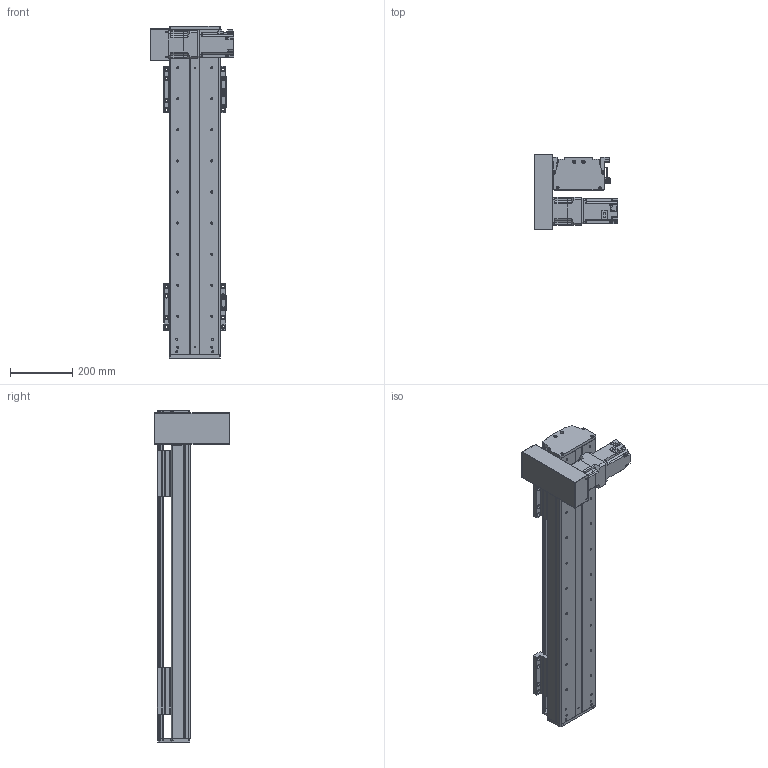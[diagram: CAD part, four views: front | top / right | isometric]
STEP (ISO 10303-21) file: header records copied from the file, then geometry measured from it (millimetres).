
FILE_DESCRIPTION(/* description */ (''),/* implementation_level */ '2;1');
FILE_NAME(/* name */ 'C:\Users\PC\Desktop\3D도면\STEP\DSB165-DL7G-W0700-R.stp',/* time_stamp */ '2018-06-25T15:40:39+09:00',/* author */ ('PC'),/* organization */ (''),/* preprocessor_version */ 'ST-DEVELOPER v16.5',/* originating_system */ 'Autodesk Inventor 2017',/* authorisation */ '');
FILE_SCHEMA (('AUTOMOTIVE_DESIGN { 1 0 10303 214 3 1 1 }'));
Length unit declared in the file: millimetre
Products named in the file (12): DSB165-L; DSR165-BASE_S; hg-kr73_; ab0901-p0401300102; 11-DBS165 BELT COVER; DBS165-COVER; DBS165-COVER_1; DBS165-UP COVER; DBS165-TABLE(MSA20S); DSR126-SENSOR DOG; SENSOR BRACKET(EE-SX674A); pm-y65_step
Assembly tree (16 placements, depth 2):
  DSB165-L
    DSR165-BASE_S
    hg-kr73_
    ab0901-p0401300102
    11-DBS165 BELT COVER
    DBS165-COVER
    DBS165-COVER_1
    DBS165-UP COVER
    DBS165-TABLE(MSA20S)  x2
    DSR126-SENSOR DOG
    pm-y65_step  x3
    SENSOR BRACKET(EE-SX674A)  x3
Bounding box: 270 x 242 x 1070 mm (x, y, z)
Volume: 7496807.1 mm3; surface area: 1728668.7 mm2
Topology: 17 solids, 22 shells, 1663 faces, 4465 edges, 2946 vertices
Faces by surface type: plane 926, cylinder 617, cone 108, sphere 8, torus 4
Full cylindrical faces by diameter (mm): 2.459 x20, 3.5 x6, 4.134 x42, 4.5 x18, 5 x27, 5.5 x36, 5.9 x4, 6 x8, 6.6 x14, 6.647 x36, 6.8 x1, 7 x4, 7.6 x4, 8 x1, 8.4 x1, 8.5 x24, 8.7 x1, 9.5 x32, 11 x6, 14 x16, 19 x1, 22 x1, 24 x1, 25 x1, 28 x1, 67 x1, 70 x2, 80 x1
Entity records: 35389 total; most frequent: DIRECTION 6252, CARTESIAN_POINT 6067, ORIENTED_EDGE 5526, EDGE_CURVE 2768, AXIS2_PLACEMENT_3D 2296, VERTEX_POINT 1973, EDGE_LOOP 1723, LINE 1660
